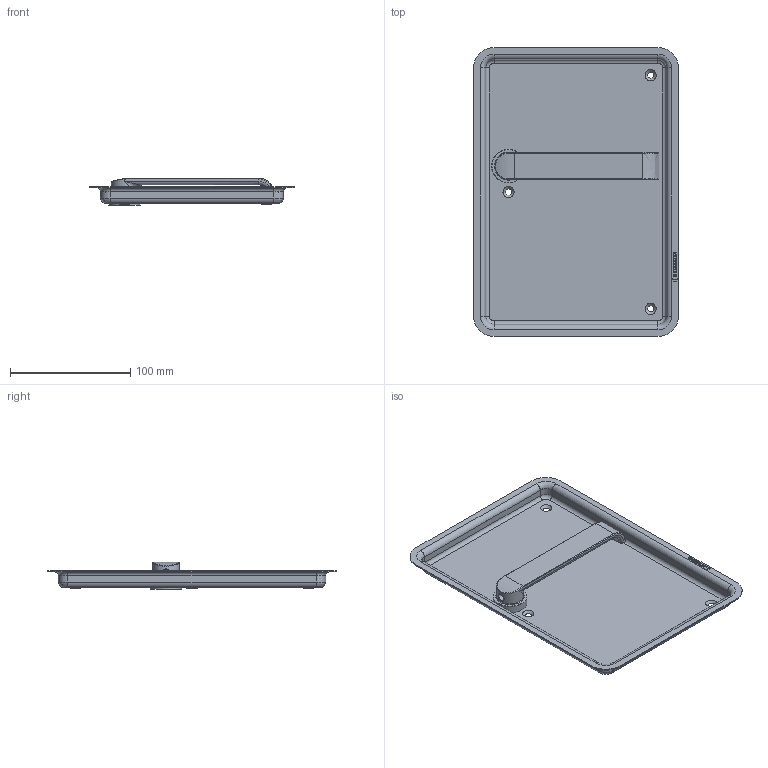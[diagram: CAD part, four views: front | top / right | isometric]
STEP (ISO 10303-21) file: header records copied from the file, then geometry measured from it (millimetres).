
FILE_DESCRIPTION(/* description */ (''),/* implementation_level */ '2;1');
FILE_NAME(/* name */ 'C:\ADSK_DMS_WS\Designs\Vorschläge\Loc Schalen\Muschel Serie 3\S3.13.D1\Heusser-Muschel S3.13.D1.0R.stp',/* time_stamp */ '2020-10-15T15:52:09+02:00',/* author */ ('gm'),/* organization */ (''),/* preprocessor_version */ 'ST-DEVELOPER v16.5',/* originating_system */ 'Autodesk Inventor 2017',/* authorisation */ '');
FILE_SCHEMA (('AUTOMOTIVE_DESIGN { 1 0 10303 214 3 1 1 }'));
Length unit declared in the file: millimetre
Products named in the file (1): S3.13.D1
Bounding box: 170 x 240 x 23 mm (x, y, z)
Volume: 67813.1 mm3; surface area: 106447.4 mm2
Topology: 1 solids, 2 shells, 302 faces, 755 edges, 478 vertices
Faces by surface type: plane 130, bspline 82, cylinder 59, cone 16, torus 15
Full cylindrical faces by diameter (mm): 1.7 x2, 6 x1, 14.2 x1, 16 x3, 18 x1, 19 x1, 19.1 x1, 22 x1, 23 x1, 23.2 x1, 24 x1, 25 x1, 26 x1, 28 x1
Entity records: 10111 total; most frequent: CARTESIAN_POINT 3013, ORIENTED_EDGE 1424, DIRECTION 1246, EDGE_CURVE 712, VERTEX_POINT 472, AXIS2_PLACEMENT_3D 427, LINE 392, VECTOR 392
